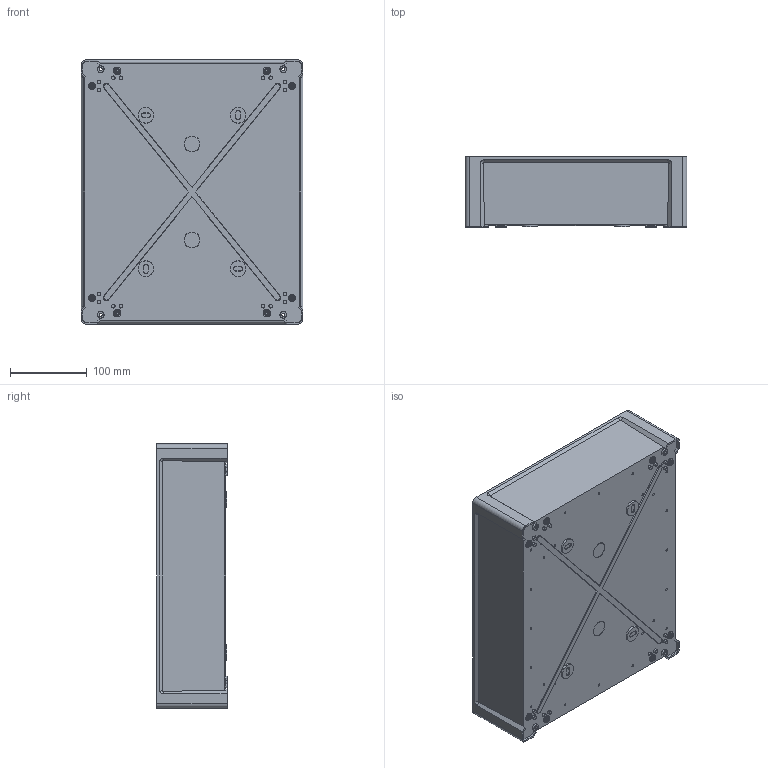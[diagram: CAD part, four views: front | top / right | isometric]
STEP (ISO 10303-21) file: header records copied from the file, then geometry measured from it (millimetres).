
FILE_DESCRIPTION (( 'STEP AP214' ), '1' );
FILE_NAME ('FIBOX TEMPO 3429 Base.STEP', '2006-11-30T13:08:58', ( 'JuhaniH' ), ( 'Fibox Oy' ), 'SwSTEP 2.0', 'SolidWorks 2006233', '' );
FILE_SCHEMA (( 'AUTOMOTIVE_DESIGN' ));
Length unit declared in the file: millimetre
Products named in the file (1): FIBOX TEMPO 3429 Base
Bounding box: 289 x 91.4 x 344 mm (x, y, z)
Volume: 697519.6 mm3; surface area: 446228.8 mm2
Topology: 1 solids, 4 shells, 979 faces, 2284 edges, 1514 vertices
Faces by surface type: plane 468, cone 454, cylinder 54, bspline 3
Entity records: 29459 total; most frequent: CARTESIAN_POINT 5352, DIRECTION 5114, ORIENTED_EDGE 4568, EDGE_CURVE 2284, AXIS2_PLACEMENT_3D 1970, VERTEX_POINT 1514, EDGE_LOOP 1194, VECTOR 1174
